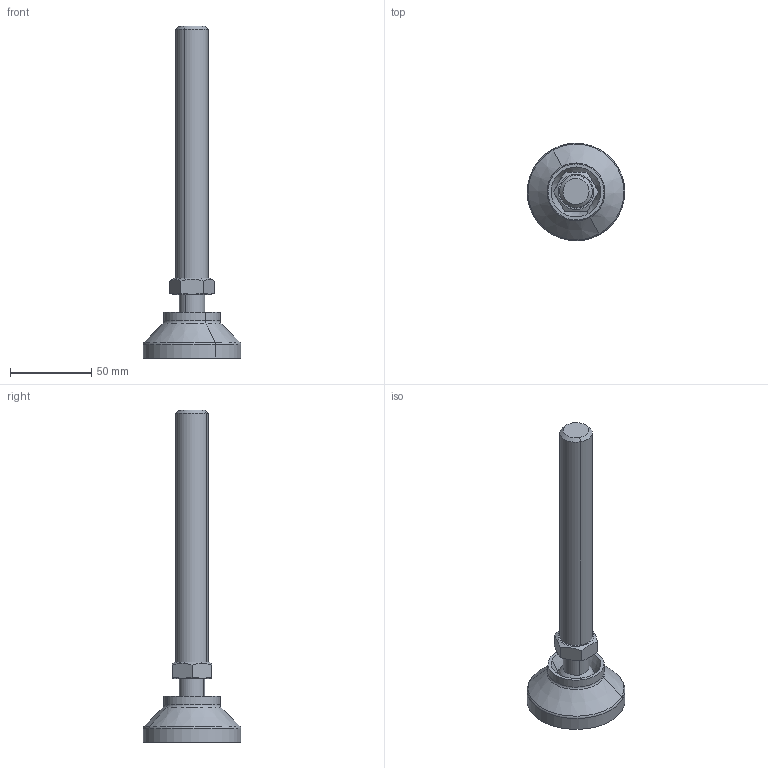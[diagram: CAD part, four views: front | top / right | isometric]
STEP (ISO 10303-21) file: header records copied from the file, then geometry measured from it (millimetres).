
FILE_DESCRIPTION(('CATIA V5 STEP Exchange'),'2;1');
FILE_NAME('C:\Users\ALI OZGUN\Desktop\alhan\ARTICULATED_FEET-PABUCLAR\501602621.stp','2017-09-21T11:53:48+00:00',('none'),('none'),'CATIA Version 5 Release 21 GA (IN-10)','CATIA V5 STEP AP203','none');
FILE_SCHEMA(('CONFIG_CONTROL_DESIGN'));
Length unit declared in the file: millimetre
Products named in the file (1): 501602621
Bounding box: 59.98 x 59.98 x 204 mm (x, y, z)
Volume: 91108.7 mm3; surface area: 27361.1 mm2
Topology: 2 solids, 2 shells, 96 faces, 264 edges, 176 vertices
Faces by surface type: plane 44, cylinder 22, cone 20, sphere 6, torus 4
Entity records: 3114 total; most frequent: CARTESIAN_POINT 983, ORIENTED_EDGE 520, DIRECTION 280, EDGE_CURVE 260, VERTEX_POINT 176, AXIS2_PLACEMENT_3D 147, EDGE_LOOP 104, CIRCLE 100
